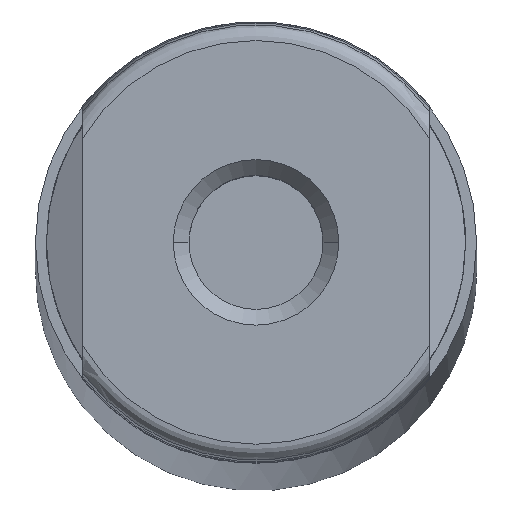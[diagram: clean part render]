
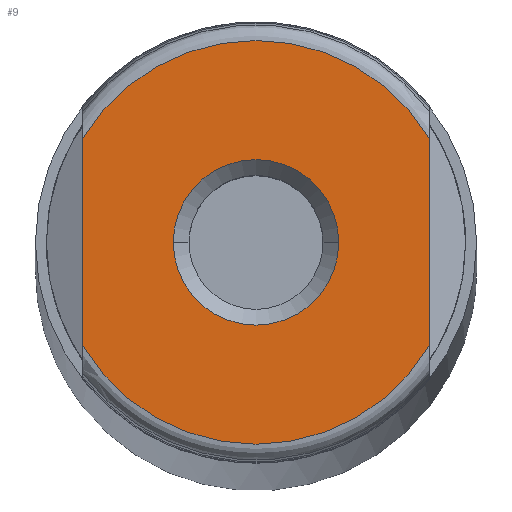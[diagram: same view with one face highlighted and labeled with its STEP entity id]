
A CAD part, top view. The second image highlights one B-rep face of the part: STEP entity #9.
In plain terms, the highlighted planar face has unit normal (0, 0, 1).
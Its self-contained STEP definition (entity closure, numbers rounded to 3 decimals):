
#4 = ORIENTED_EDGE ( 'NONE', *, *, #593, .F. ) ;
#9 = ADVANCED_FACE ( 'NONE', ( #305, #306 ), #307, .F. ) ;
#22 = ORIENTED_EDGE ( 'NONE', *, *, #1265, .T. ) ;
#30 = EDGE_LOOP ( 'NONE', ( #22, #436, #171, #113 ) ) ;
#45 = EDGE_CURVE ( 'NONE', #755, #210, #561, .T. ) ;
#54 = EDGE_CURVE ( 'NONE', #347, #101, #677, .T. ) ;
#55 = EDGE_CURVE ( 'NONE', #200, #970, #681, .T. ) ;
#101 = VERTEX_POINT ( 'NONE', #964 ) ;
#113 = ORIENTED_EDGE ( 'NONE', *, *, #54, .F. ) ;
#143 = EDGE_LOOP ( 'NONE', ( #4, #1314 ) ) ;
#171 = ORIENTED_EDGE ( 'NONE', *, *, #790, .T. ) ;
#200 = VERTEX_POINT ( 'NONE', #733 ) ;
#210 = VERTEX_POINT ( 'NONE', #775 ) ;
#305 = FACE_BOUND ( 'NONE', #143, .T. ) ;
#306 = FACE_OUTER_BOUND ( 'NONE', #30, .T. ) ;
#307 = PLANE ( 'NONE',  #308 ) ;
#308 = AXIS2_PLACEMENT_3D ( 'NONE', #309, #310, #312 ) ;
#309 = CARTESIAN_POINT ( 'NONE',  ( 0., 0., 0. ) ) ;
#310 = DIRECTION ( 'NONE',  ( 0., 0., -1. ) ) ;
#312 = DIRECTION ( 'NONE',  ( -1., 0., 0. ) ) ;
#318 = CARTESIAN_POINT ( 'NONE',  ( -11., -6.56, 0. ) ) ;
#347 = VERTEX_POINT ( 'NONE', #318 ) ;
#402 = CIRCLE ( 'NONE', #403, 5.25 ) ;
#403 = AXIS2_PLACEMENT_3D ( 'NONE', #404, #405, #406 ) ;
#404 = CARTESIAN_POINT ( 'NONE',  ( 0., 0., 0. ) ) ;
#405 = DIRECTION ( 'NONE',  ( 0., 0., 1. ) ) ;
#406 = DIRECTION ( 'NONE',  ( 1., 0., 0. ) ) ;
#436 = ORIENTED_EDGE ( 'NONE', *, *, #45, .T. ) ;
#512 = CARTESIAN_POINT ( 'NONE',  ( 11., -6.56, 0. ) ) ;
#532 = CIRCLE ( 'NONE', #533, 12.808 ) ;
#533 = AXIS2_PLACEMENT_3D ( 'NONE', #534, #535, #536 ) ;
#534 = CARTESIAN_POINT ( 'NONE',  ( 0., 0., 0. ) ) ;
#535 = DIRECTION ( 'NONE',  ( 0., 0., 1. ) ) ;
#536 = DIRECTION ( 'NONE',  ( 1., 0., 0. ) ) ;
#561 = LINE ( 'NONE', #562, #563 ) ;
#562 = CARTESIAN_POINT ( 'NONE',  ( 11., -14., 0. ) ) ;
#563 = VECTOR ( 'NONE', #564, 1000. ) ;
#564 = DIRECTION ( 'NONE',  ( 0., 1., 0. ) ) ;
#593 = EDGE_CURVE ( 'NONE', #970, #200, #402, .T. ) ;
#664 = CARTESIAN_POINT ( 'NONE',  ( 5.25, 0., 0. ) ) ;
#677 = LINE ( 'NONE', #678, #679 ) ;
#678 = CARTESIAN_POINT ( 'NONE',  ( -11., -14., 0. ) ) ;
#679 = VECTOR ( 'NONE', #680, 1000. ) ;
#680 = DIRECTION ( 'NONE',  ( 0., 1., 0. ) ) ;
#681 = CIRCLE ( 'NONE', #682, 5.25 ) ;
#682 = AXIS2_PLACEMENT_3D ( 'NONE', #685, #686, #687 ) ;
#685 = CARTESIAN_POINT ( 'NONE',  ( 0., 0., 0. ) ) ;
#686 = DIRECTION ( 'NONE',  ( 0., 0., 1. ) ) ;
#687 = DIRECTION ( 'NONE',  ( 1., 0., 0. ) ) ;
#733 = CARTESIAN_POINT ( 'NONE',  ( -5.25, 0., 0. ) ) ;
#755 = VERTEX_POINT ( 'NONE', #512 ) ;
#775 = CARTESIAN_POINT ( 'NONE',  ( 11., 6.56, 0. ) ) ;
#790 = EDGE_CURVE ( 'NONE', #210, #101, #532, .T. ) ;
#964 = CARTESIAN_POINT ( 'NONE',  ( -11., 6.56, 0. ) ) ;
#970 = VERTEX_POINT ( 'NONE', #664 ) ;
#1068 = CIRCLE ( 'NONE', #1069, 12.808 ) ;
#1069 = AXIS2_PLACEMENT_3D ( 'NONE', #1070, #1071, #1073 ) ;
#1070 = CARTESIAN_POINT ( 'NONE',  ( 0., 0., 0. ) ) ;
#1071 = DIRECTION ( 'NONE',  ( 0., 0., 1. ) ) ;
#1073 = DIRECTION ( 'NONE',  ( 1., 0., 0. ) ) ;
#1265 = EDGE_CURVE ( 'NONE', #347, #755, #1068, .T. ) ;
#1314 = ORIENTED_EDGE ( 'NONE', *, *, #55, .F. ) ;
